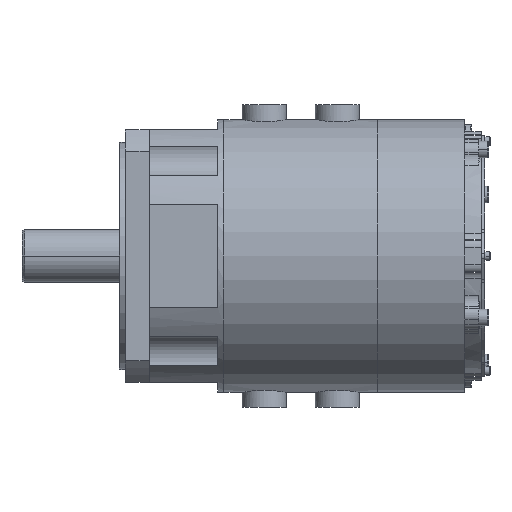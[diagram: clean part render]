
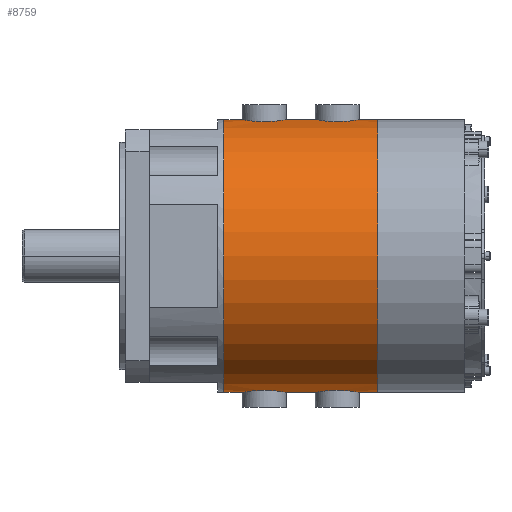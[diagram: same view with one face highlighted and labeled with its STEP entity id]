
A CAD part, front view. The second image highlights one B-rep face of the part: STEP entity #8759.
In plain terms, the highlighted cylindrical face has radius 108 mm (diameter 216 mm), a partial arc.
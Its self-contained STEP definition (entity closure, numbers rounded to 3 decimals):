
#7719=CARTESIAN_POINT('',(120.,0.,108.));
#7720=CARTESIAN_POINT('',(120.,-0.801,108.));
#7721=CARTESIAN_POINT('',(119.817,-2.364,107.983));
#7722=CARTESIAN_POINT('',(118.943,-4.698,107.905));
#7723=CARTESIAN_POINT('',(117.551,-6.698,107.797));
#7724=CARTESIAN_POINT('',(115.776,-8.282,107.685));
#7725=CARTESIAN_POINT('',(113.577,-9.45,107.587));
#7726=CARTESIAN_POINT('',(111.175,-10.026,107.534));
#7727=CARTESIAN_POINT('',(108.819,-10.025,107.534));
#7728=CARTESIAN_POINT('',(106.42,-9.449,107.587));
#7729=CARTESIAN_POINT('',(104.216,-8.278,107.685));
#7730=CARTESIAN_POINT('',(102.437,-6.684,107.798));
#7731=CARTESIAN_POINT('',(101.055,-4.693,107.905));
#7732=CARTESIAN_POINT('',(100.183,-2.363,107.983));
#7733=CARTESIAN_POINT('',(100.,-0.801,108.));
#7734=CARTESIAN_POINT('',(100.,0.,108.));
#7736=CARTESIAN_POINT('',(178.,0.,108.));
#7737=CARTESIAN_POINT('',(178.,-0.801,108.));
#7738=CARTESIAN_POINT('',(177.817,-2.364,107.983));
#7739=CARTESIAN_POINT('',(176.943,-4.698,107.905));
#7740=CARTESIAN_POINT('',(175.551,-6.698,107.797));
#7741=CARTESIAN_POINT('',(173.776,-8.282,107.685));
#7742=CARTESIAN_POINT('',(171.577,-9.45,107.587));
#7743=CARTESIAN_POINT('',(169.175,-10.026,107.534));
#7744=CARTESIAN_POINT('',(166.819,-10.025,107.534));
#7745=CARTESIAN_POINT('',(164.42,-9.449,107.587));
#7746=CARTESIAN_POINT('',(162.216,-8.278,107.685));
#7747=CARTESIAN_POINT('',(160.437,-6.684,107.798));
#7748=CARTESIAN_POINT('',(159.055,-4.693,107.905));
#7749=CARTESIAN_POINT('',(158.183,-2.363,107.983));
#7750=CARTESIAN_POINT('',(158.,-0.801,108.));
#7751=CARTESIAN_POINT('',(158.,0.,108.));
#7753=CARTESIAN_POINT('',(200.,0.,0.));
#7754=DIRECTION('',(1.,0.,0.));
#7755=DIRECTION('',(0.,0.,1.));
#7756=AXIS2_PLACEMENT_3D('',#7753,#7754,#7755);
#7758=DIRECTION('',(-1.,0.,0.));
#7759=VECTOR('',#7758,22.);
#7760=CARTESIAN_POINT('',(200.,0.,-108.));
#7761=LINE('',#7760,#7759);
#7762=CARTESIAN_POINT('',(158.,0.,-108.));
#7763=CARTESIAN_POINT('',(158.,-0.801,-108.));
#7764=CARTESIAN_POINT('',(158.183,-2.363,
-107.983));
#7765=CARTESIAN_POINT('',(159.054,-4.692,
-107.906));
#7766=CARTESIAN_POINT('',(160.437,-6.684,
-107.798));
#7767=CARTESIAN_POINT('',(162.216,-8.278,
-107.685));
#7768=CARTESIAN_POINT('',(164.419,-9.448,
-107.587));
#7769=CARTESIAN_POINT('',(166.819,-10.025,
-107.534));
#7770=CARTESIAN_POINT('',(169.175,-10.026,
-107.534));
#7771=CARTESIAN_POINT('',(171.577,-9.45,
-107.587));
#7772=CARTESIAN_POINT('',(173.776,-8.282,
-107.685));
#7773=CARTESIAN_POINT('',(175.551,-6.698,
-107.797));
#7774=CARTESIAN_POINT('',(176.943,-4.699,
-107.905));
#7775=CARTESIAN_POINT('',(177.817,-2.364,
-107.983));
#7776=CARTESIAN_POINT('',(178.,-0.801,-108.));
#7777=CARTESIAN_POINT('',(178.,0.,-108.));
#7779=DIRECTION('',(-1.,0.,0.));
#7780=VECTOR('',#7779,38.);
#7781=CARTESIAN_POINT('',(158.,0.,-108.));
#7782=LINE('',#7781,#7780);
#7783=CARTESIAN_POINT('',(100.,0.,-108.));
#7784=CARTESIAN_POINT('',(100.,-0.801,-108.));
#7785=CARTESIAN_POINT('',(100.183,-2.363,
-107.983));
#7786=CARTESIAN_POINT('',(101.054,-4.692,
-107.906));
#7787=CARTESIAN_POINT('',(102.437,-6.684,
-107.798));
#7788=CARTESIAN_POINT('',(104.216,-8.278,
-107.685));
#7789=CARTESIAN_POINT('',(106.419,-9.448,
-107.587));
#7790=CARTESIAN_POINT('',(108.819,-10.025,
-107.534));
#7791=CARTESIAN_POINT('',(111.175,-10.026,
-107.534));
#7792=CARTESIAN_POINT('',(113.577,-9.45,
-107.587));
#7793=CARTESIAN_POINT('',(115.776,-8.282,
-107.685));
#7794=CARTESIAN_POINT('',(117.551,-6.698,
-107.797));
#7795=CARTESIAN_POINT('',(118.943,-4.699,
-107.905));
#7796=CARTESIAN_POINT('',(119.817,-2.364,
-107.983));
#7797=CARTESIAN_POINT('',(120.,-0.801,-108.));
#7798=CARTESIAN_POINT('',(120.,0.,-108.));
#7800=DIRECTION('',(-1.,0.,0.));
#7801=VECTOR('',#7800,22.);
#7802=CARTESIAN_POINT('',(100.,0.,-108.));
#7803=LINE('',#7802,#7801);
#7804=CARTESIAN_POINT('',(78.,0.,0.));
#7805=DIRECTION('',(-1.,0.,0.));
#7806=DIRECTION('',(0.,0.,-1.));
#7807=AXIS2_PLACEMENT_3D('',#7804,#7805,#7806);
#8508=DIRECTION('',(-1.,0.,0.));
#8509=VECTOR('',#8508,22.);
#8510=CARTESIAN_POINT('',(100.,0.,108.));
#8511=LINE('',#8510,#8509);
#8556=DIRECTION('',(-1.,0.,0.));
#8557=VECTOR('',#8556,22.);
#8558=CARTESIAN_POINT('',(200.,0.,108.));
#8559=LINE('',#8558,#8557);
#8577=DIRECTION('',(-1.,0.,0.));
#8578=VECTOR('',#8577,38.);
#8579=CARTESIAN_POINT('',(158.,0.,108.));
#8580=LINE('',#8579,#8578);
#8597=CARTESIAN_POINT('',(200.,0.,-108.));
#8598=CARTESIAN_POINT('',(200.,0.,108.));
#8599=VERTEX_POINT('',#8597);
#8600=VERTEX_POINT('',#8598);
#8601=CARTESIAN_POINT('',(78.,0.,-108.));
#8602=CARTESIAN_POINT('',(78.,0.,108.));
#8603=VERTEX_POINT('',#8601);
#8604=VERTEX_POINT('',#8602);
#8702=VERTEX_POINT('',#7783);
#8703=VERTEX_POINT('',#7798);
#8704=VERTEX_POINT('',#7762);
#8705=VERTEX_POINT('',#7777);
#8710=CARTESIAN_POINT('',(120.,0.,108.));
#8712=VERTEX_POINT('',#8710);
#8714=CARTESIAN_POINT('',(100.,0.,108.));
#8716=VERTEX_POINT('',#8714);
#8718=CARTESIAN_POINT('',(178.,0.,108.));
#8720=VERTEX_POINT('',#8718);
#8722=CARTESIAN_POINT('',(158.,0.,108.));
#8724=VERTEX_POINT('',#8722);
#8728=CARTESIAN_POINT('',(200.,0.,0.));
#8729=DIRECTION('',(-1.,0.,0.));
#8730=DIRECTION('',(0.,0.,-1.));
#8731=AXIS2_PLACEMENT_3D('',#8728,#8729,#8730);
#8732=CYLINDRICAL_SURFACE('',#8731,108.);
#8734=ORIENTED_EDGE('',*,*,#8733,.F.);
#8736=ORIENTED_EDGE('',*,*,#8735,.F.);
#8738=ORIENTED_EDGE('',*,*,#8737,.F.);
#8740=ORIENTED_EDGE('',*,*,#8739,.F.);
#8742=ORIENTED_EDGE('',*,*,#8741,.T.);
#8744=ORIENTED_EDGE('',*,*,#8743,.T.);
#8746=ORIENTED_EDGE('',*,*,#8745,.F.);
#8748=ORIENTED_EDGE('',*,*,#8747,.T.);
#8750=ORIENTED_EDGE('',*,*,#8749,.F.);
#8752=ORIENTED_EDGE('',*,*,#8751,.T.);
#8754=ORIENTED_EDGE('',*,*,#8753,.T.);
#8756=ORIENTED_EDGE('',*,*,#8755,.F.);
#8757=EDGE_LOOP('',(#8734,#8736,#8738,#8740,#8742,#8744,#8746,#8748,#8750,#8752,
#8754,#8756));
#8758=FACE_OUTER_BOUND('',#8757,.F.);
#8759=ADVANCED_FACE('',(#8758),#8732,.T.);
#7735=B_SPLINE_CURVE_WITH_KNOTS('',3,(#7719,#7720,#7721,#7722,#7723,#7724,#7725,
#7726,#7727,#7728,#7729,#7730,#7731,#7732,#7733,#7734),.UNSPECIFIED.,.F.,.F.,(4,
1,1,1,1,1,1,1,1,1,1,1,1,4),(0.,0.077,0.154,
0.231,0.308,0.385,0.462,
0.538,0.615,0.692,0.769,
0.846,0.923,1.),.UNSPECIFIED.);
#7752=B_SPLINE_CURVE_WITH_KNOTS('',3,(#7736,#7737,#7738,#7739,#7740,#7741,#7742,
#7743,#7744,#7745,#7746,#7747,#7748,#7749,#7750,#7751),.UNSPECIFIED.,.F.,.F.,(4,
1,1,1,1,1,1,1,1,1,1,1,1,4),(0.,0.077,0.154,
0.231,0.308,0.385,0.462,
0.538,0.615,0.692,0.769,
0.846,0.923,1.),.UNSPECIFIED.);
#7757=CIRCLE('',#7756,108.);
#7778=B_SPLINE_CURVE_WITH_KNOTS('',3,(#7762,#7763,#7764,#7765,#7766,#7767,#7768,
#7769,#7770,#7771,#7772,#7773,#7774,#7775,#7776,#7777),.UNSPECIFIED.,.F.,.F.,(4,
1,1,1,1,1,1,1,1,1,1,1,1,4),(0.,0.077,0.154,
0.231,0.308,0.385,0.462,
0.538,0.615,0.692,0.769,
0.846,0.923,1.),.UNSPECIFIED.);
#7799=B_SPLINE_CURVE_WITH_KNOTS('',3,(#7783,#7784,#7785,#7786,#7787,#7788,#7789,
#7790,#7791,#7792,#7793,#7794,#7795,#7796,#7797,#7798),.UNSPECIFIED.,.F.,.F.,(4,
1,1,1,1,1,1,1,1,1,1,1,1,4),(0.,0.077,0.154,
0.231,0.308,0.385,0.462,
0.538,0.615,0.692,0.769,
0.846,0.923,1.),.UNSPECIFIED.);
#7808=CIRCLE('',#7807,108.);
#8733=EDGE_CURVE('',#8712,#8716,#7735,.T.);
#8735=EDGE_CURVE('',#8724,#8712,#8580,.T.);
#8737=EDGE_CURVE('',#8720,#8724,#7752,.T.);
#8739=EDGE_CURVE('',#8600,#8720,#8559,.T.);
#8741=EDGE_CURVE('',#8600,#8599,#7757,.T.);
#8743=EDGE_CURVE('',#8599,#8705,#7761,.T.);
#8745=EDGE_CURVE('',#8704,#8705,#7778,.T.);
#8747=EDGE_CURVE('',#8704,#8703,#7782,.T.);
#8749=EDGE_CURVE('',#8702,#8703,#7799,.T.);
#8751=EDGE_CURVE('',#8702,#8603,#7803,.T.);
#8753=EDGE_CURVE('',#8603,#8604,#7808,.T.);
#8755=EDGE_CURVE('',#8716,#8604,#8511,.T.);
